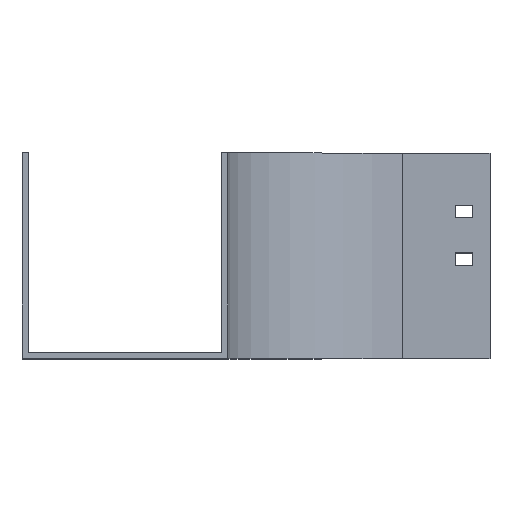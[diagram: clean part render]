
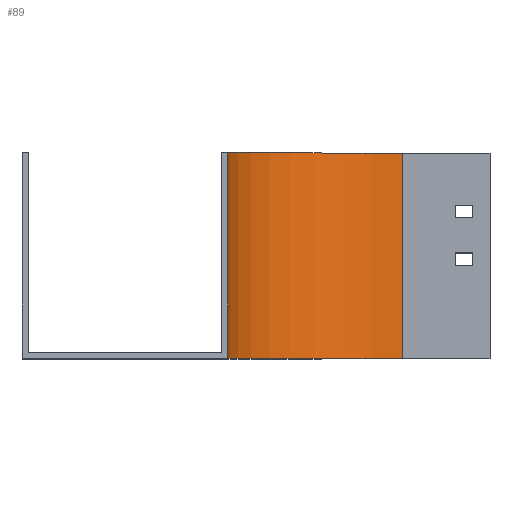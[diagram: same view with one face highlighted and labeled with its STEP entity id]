
A CAD part, top view. The second image highlights one B-rep face of the part: STEP entity #89.
In plain terms, the highlighted cylindrical face has radius 100 mm (diameter 200 mm), a partial arc.
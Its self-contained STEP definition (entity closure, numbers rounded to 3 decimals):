
#89 = ADVANCED_FACE ( 'NONE', ( #2141 ), #647, .F. ) ;
#127 = CARTESIAN_POINT ( 'NONE',  ( 0., 117.5, 0. ) ) ;
#352 = CARTESIAN_POINT ( 'NONE',  ( 0., 117.5, 0. ) ) ;
#384 = CARTESIAN_POINT ( 'NONE',  ( 0., 117.5, -100. ) ) ;
#389 = EDGE_CURVE ( 'NONE', #1881, #2040, #1618, .T. ) ;
#470 = EDGE_CURVE ( 'NONE', #2740, #1881, #758, .T. ) ;
#477 = VECTOR ( 'NONE', #737, 1000. ) ;
#590 = CARTESIAN_POINT ( 'NONE',  ( -100., 117.5, 0. ) ) ;
#647 = CYLINDRICAL_SURFACE ( 'NONE', #2153, 100. ) ;
#737 = DIRECTION ( 'NONE',  ( 0., -1., 0. ) ) ;
#758 = LINE ( 'NONE', #1403, #986 ) ;
#870 = DIRECTION ( 'NONE',  ( 0., 0., -1. ) ) ;
#948 = CARTESIAN_POINT ( 'NONE',  ( 0., 117.5, -100. ) ) ;
#986 = VECTOR ( 'NONE', #1628, 1000. ) ;
#1025 = CARTESIAN_POINT ( 'NONE',  ( 0., 0., -100. ) ) ;
#1162 = AXIS2_PLACEMENT_3D ( 'NONE', #1662, #1202, #2668 ) ;
#1181 = AXIS2_PLACEMENT_3D ( 'NONE', #127, #1637, #1378 ) ;
#1202 = DIRECTION ( 'NONE',  ( 0., -1., 0. ) ) ;
#1235 = EDGE_LOOP ( 'NONE', ( #1652, #2326, #2392, #1980 ) ) ;
#1378 = DIRECTION ( 'NONE',  ( 0., 0., -1. ) ) ;
#1403 = CARTESIAN_POINT ( 'NONE',  ( -100., 117.5, 0. ) ) ;
#1480 = EDGE_CURVE ( 'NONE', #1493, #2040, #2035, .T. ) ;
#1493 = VERTEX_POINT ( 'NONE', #384 ) ;
#1618 = CIRCLE ( 'NONE', #1162, 100. ) ;
#1628 = DIRECTION ( 'NONE',  ( 0., -1., 0. ) ) ;
#1637 = DIRECTION ( 'NONE',  ( 0., -1., 0. ) ) ;
#1652 = ORIENTED_EDGE ( 'NONE', *, *, #389, .T. ) ;
#1662 = CARTESIAN_POINT ( 'NONE',  ( 0., 0., 0. ) ) ;
#1881 = VERTEX_POINT ( 'NONE', #2605 ) ;
#1938 = DIRECTION ( 'NONE',  ( 0., -1., 0. ) ) ;
#1980 = ORIENTED_EDGE ( 'NONE', *, *, #470, .T. ) ;
#2032 = CIRCLE ( 'NONE', #1181, 100. ) ;
#2035 = LINE ( 'NONE', #948, #477 ) ;
#2040 = VERTEX_POINT ( 'NONE', #1025 ) ;
#2141 = FACE_OUTER_BOUND ( 'NONE', #1235, .T. ) ;
#2149 = EDGE_CURVE ( 'NONE', #2740, #1493, #2032, .T. ) ;
#2153 = AXIS2_PLACEMENT_3D ( 'NONE', #352, #1938, #870 ) ;
#2326 = ORIENTED_EDGE ( 'NONE', *, *, #1480, .F. ) ;
#2392 = ORIENTED_EDGE ( 'NONE', *, *, #2149, .F. ) ;
#2605 = CARTESIAN_POINT ( 'NONE',  ( -100., 0., 0. ) ) ;
#2668 = DIRECTION ( 'NONE',  ( 0., 0., -1. ) ) ;
#2740 = VERTEX_POINT ( 'NONE', #590 ) ;
